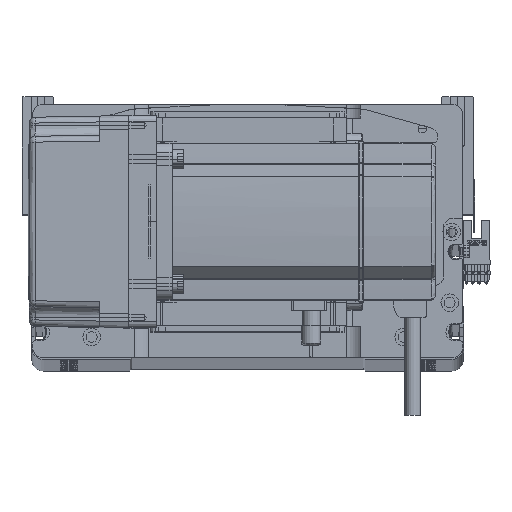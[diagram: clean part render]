
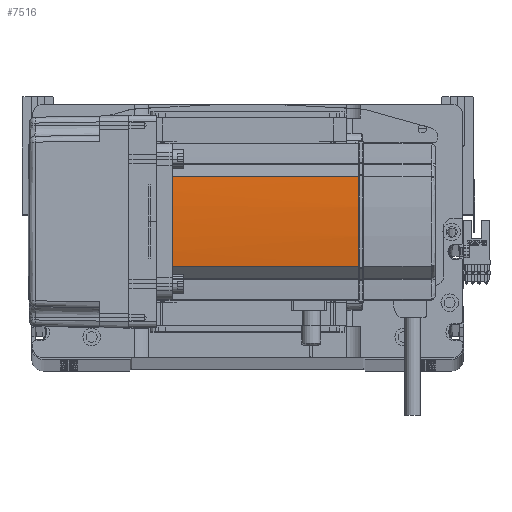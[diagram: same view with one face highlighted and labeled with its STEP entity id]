
A CAD part, top view. The second image highlights one B-rep face of the part: STEP entity #7516.
In plain terms, the highlighted cylindrical face has radius 270 mm (diameter 540 mm), a partial arc.
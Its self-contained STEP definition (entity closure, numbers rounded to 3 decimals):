
#70 = AXIS2_PLACEMENT_3D ( 'NONE', #52143, #47538, #20028 ) ;
#4888 = VERTEX_POINT ( 'NONE', #12922 ) ;
#7516 = ADVANCED_FACE ( 'NONE', ( #8144 ), #55576, .T. ) ;
#7643 = ORIENTED_EDGE ( 'NONE', *, *, #28248, .T. ) ;
#8144 = FACE_OUTER_BOUND ( 'NONE', #53823, .T. ) ;
#8515 = DIRECTION ( 'NONE',  ( -1., 0., 0. ) ) ;
#8584 = VERTEX_POINT ( 'NONE', #50931 ) ;
#8907 = DIRECTION ( 'NONE',  ( -1., 0., 0. ) ) ;
#9401 = VERTEX_POINT ( 'NONE', #59180 ) ;
#12922 = CARTESIAN_POINT ( 'NONE',  ( 40., 0.127, 134. ) ) ;
#13963 = DIRECTION ( 'NONE',  ( 0., 0., -1. ) ) ;
#16986 = ORIENTED_EDGE ( 'NONE', *, *, #27882, .F. ) ;
#17786 = AXIS2_PLACEMENT_3D ( 'NONE', #49917, #26678, #8515 ) ;
#18170 = CARTESIAN_POINT ( 'NONE',  ( -230., 0., 134. ) ) ;
#18182 = DIRECTION ( 'NONE',  ( -1., 0., 0. ) ) ;
#19728 = EDGE_CURVE ( 'NONE', #28235, #9401, #44365, .T. ) ;
#20028 = DIRECTION ( 'NONE',  ( -1., 0., 0. ) ) ;
#20300 = CARTESIAN_POINT ( 'NONE',  ( 40., -0.042, 134. ) ) ;
#20621 = VECTOR ( 'NONE', #23191, 1000. ) ;
#22644 = ORIENTED_EDGE ( 'NONE', *, *, #33163, .F. ) ;
#22781 = ORIENTED_EDGE ( 'NONE', *, *, #19728, .T. ) ;
#23191 = DIRECTION ( 'NONE',  ( 0., 0., 1. ) ) ;
#24943 = CARTESIAN_POINT ( 'NONE',  ( 40., 0.042, 134. ) ) ;
#25634 = CARTESIAN_POINT ( 'NONE',  ( 40., -0.127, 134. ) ) ;
#26678 = DIRECTION ( 'NONE',  ( 0., 0., -1. ) ) ;
#27882 = EDGE_CURVE ( 'NONE', #45130, #4888, #57062, .T. ) ;
#27901 = DIRECTION ( 'NONE',  ( 0., 0., -1. ) ) ;
#28235 = VERTEX_POINT ( 'NONE', #45490 ) ;
#28248 = EDGE_CURVE ( 'NONE', #8584, #48441, #30747, .T. ) ;
#30747 = LINE ( 'NONE', #33053, #20621 ) ;
#31587 = EDGE_CURVE ( 'NONE', #45130, #28235, #58902, .T. ) ;
#32154 = VECTOR ( 'NONE', #13963, 1000. ) ;
#33053 = CARTESIAN_POINT ( 'NONE',  ( 39.042, 22.724, 58. ) ) ;
#33163 = EDGE_CURVE ( 'NONE', #8584, #9401, #51506, .T. ) ;
#33394 = CARTESIAN_POINT ( 'NONE',  ( 40., 0.127, 134. ) ) ;
#36603 = CIRCLE ( 'NONE', #17786, 270. ) ;
#37875 = EDGE_CURVE ( 'NONE', #48441, #4888, #36603, .T. ) ;
#38376 = ORIENTED_EDGE ( 'NONE', *, *, #37875, .T. ) ;
#42893 = ORIENTED_EDGE ( 'NONE', *, *, #31587, .T. ) ;
#44365 = LINE ( 'NONE', #50568, #32154 ) ;
#45130 = VERTEX_POINT ( 'NONE', #25634 ) ;
#45490 = CARTESIAN_POINT ( 'NONE',  ( 39.042, -22.724, 134. ) ) ;
#47134 = AXIS2_PLACEMENT_3D ( 'NONE', #55350, #27901, #18182 ) ;
#47538 = DIRECTION ( 'NONE',  ( 0., 0., -1. ) ) ;
#47597 = CARTESIAN_POINT ( 'NONE',  ( 40., -0.127, 134. ) ) ;
#48441 = VERTEX_POINT ( 'NONE', #57798 ) ;
#49917 = CARTESIAN_POINT ( 'NONE',  ( -230., 0., 134. ) ) ;
#50330 = DIRECTION ( 'NONE',  ( 0., 0., -1. ) ) ;
#50568 = CARTESIAN_POINT ( 'NONE',  ( 39.042, -22.724, 58. ) ) ;
#50931 = CARTESIAN_POINT ( 'NONE',  ( 39.042, 22.724, 39. ) ) ;
#51506 = CIRCLE ( 'NONE', #70, 270. ) ;
#52143 = CARTESIAN_POINT ( 'NONE',  ( -230., 0., 39. ) ) ;
#53823 = EDGE_LOOP ( 'NONE', ( #22781, #22644, #7643, #38376, #16986, #42893 ) ) ;
#55350 = CARTESIAN_POINT ( 'NONE',  ( -230., 0., 58. ) ) ;
#55576 = CYLINDRICAL_SURFACE ( 'NONE', #47134, 270. ) ;
#56178 = AXIS2_PLACEMENT_3D ( 'NONE', #18170, #50330, #8907 ) ;
#57062 = B_SPLINE_CURVE_WITH_KNOTS ( 'NONE', 3,
 ( #47597, #20300, #24943, #33394 ),
 .UNSPECIFIED., .F., .F.,
 ( 4, 4 ),
 ( 0., 1. ),
 .UNSPECIFIED. ) ;
#57798 = CARTESIAN_POINT ( 'NONE',  ( 39.042, 22.724, 134. ) ) ;
#58902 = CIRCLE ( 'NONE', #56178, 270. ) ;
#59180 = CARTESIAN_POINT ( 'NONE',  ( 39.042, -22.724, 39. ) ) ;
